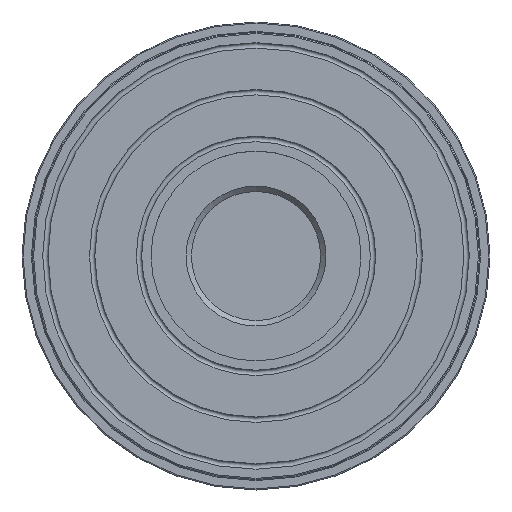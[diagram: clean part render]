
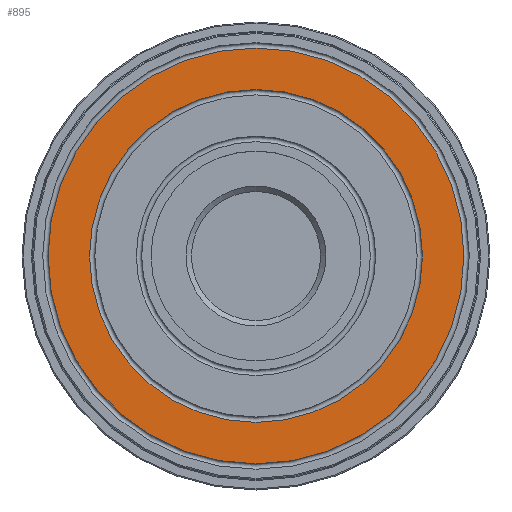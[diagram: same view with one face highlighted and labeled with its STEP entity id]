
A CAD part, top view. The second image highlights one B-rep face of the part: STEP entity #895.
In plain terms, the highlighted planar face has unit normal (0, 0, 1).
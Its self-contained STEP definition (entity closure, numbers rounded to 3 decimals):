
#895=ADVANCED_FACE('',(#1694,#1696),#1698,.T.);
#1694=FACE_BOUND('',#1695,.T.);
#1695=EDGE_LOOP('',(#4953));
#1696=FACE_BOUND('',#1697,.T.);
#1697=EDGE_LOOP('',(#4954));
#1698=PLANE('',#1699);
#1699=AXIS2_PLACEMENT_3D('',#1700,#1701,#1702);
#1700=CARTESIAN_POINT('',(0.,0.,0.));
#1701=DIRECTION('',(0.,0.,1.));
#1702=DIRECTION('',(0.,1.,0.));
#4953=ORIENTED_EDGE('',*,*,#5336,.T.);
#4954=ORIENTED_EDGE('',*,*,#5338,.T.);
#5336=EDGE_CURVE('',#5817,#5817,#5818,.F.);
#5338=EDGE_CURVE('',#5821,#5821,#5822,.T.);
#5817=VERTEX_POINT('',#8121);
#5818=CIRCLE('',#8122,38.65);
#5821=VERTEX_POINT('',#8131);
#5822=CIRCLE('',#8132,30.95);
#8121=CARTESIAN_POINT('',(0.,38.65,0.));
#8122=AXIS2_PLACEMENT_3D('',#8123,#8124,#8125);
#8123=CARTESIAN_POINT('',(0.,0.,0.));
#8124=DIRECTION('',(0.,0.,-1.));
#8125=DIRECTION('',(0.,1.,0.));
#8131=CARTESIAN_POINT('',(0.,30.95,0.));
#8132=AXIS2_PLACEMENT_3D('',#8133,#8134,#8135);
#8133=CARTESIAN_POINT('',(0.,0.,0.));
#8134=DIRECTION('',(0.,0.,-1.));
#8135=DIRECTION('',(0.,1.,0.));
